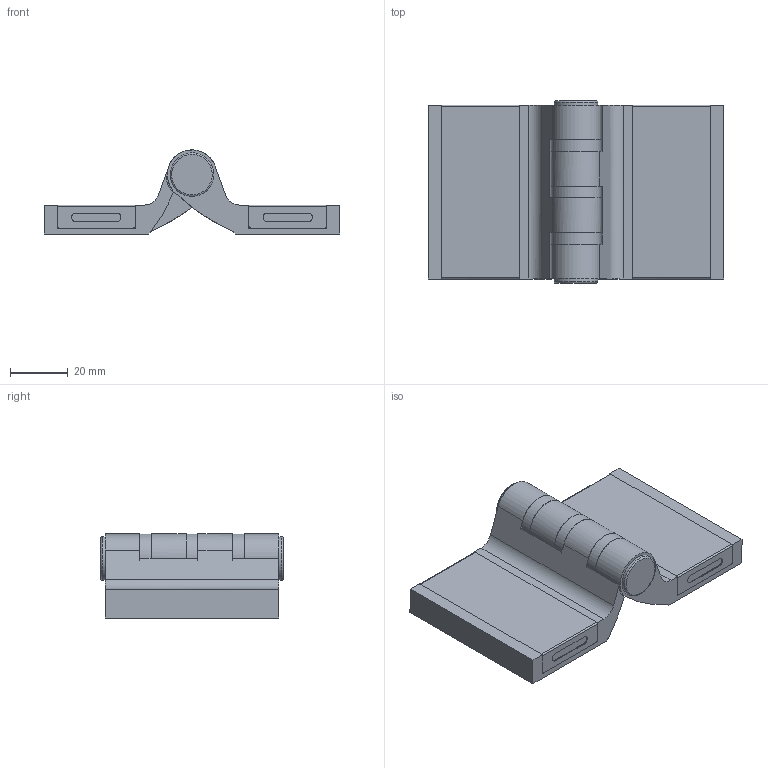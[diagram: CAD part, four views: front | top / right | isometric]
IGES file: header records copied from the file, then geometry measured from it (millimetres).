
Global section: file name: DR_H-CV60-102; native system: Autodesk Inventor 2015; preprocessor: unknown; author: CH.J; date: 20170824.110916; units: millimetre
Bounding box: 102 x 63 x 29 mm (x, y, z)
Volume: 43606.7 mm3; surface area: 38433.9 mm2
Topology: 8 solids, 8 shells, 287 faces, 735 edges, 488 vertices
Faces by surface type: bspline 287
